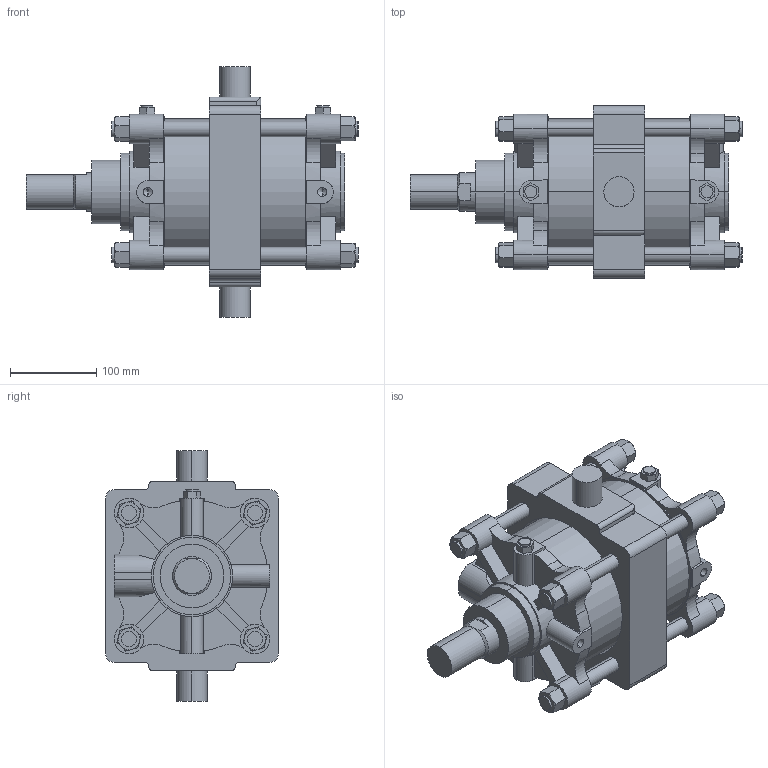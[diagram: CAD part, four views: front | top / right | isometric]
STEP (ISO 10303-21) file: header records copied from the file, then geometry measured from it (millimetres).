
FILE_DESCRIPTION (( 'STEP AP203' ), '1' );
FILE_NAME ('A##2-160#-100-T.STEP', '2016-03-31T06:56:37', ( '' ), ( '' ), 'SwSTEP 2.0', 'SolidWorks 2014', '' );
FILE_SCHEMA (( 'CONFIG_CONTROL_DESIGN' ));
Length unit declared in the file: millimetre
Products named in the file (7): A160-B; A160-A; A160-T; A##2-160#-100-T; A160-100
Assembly tree (16 placements, depth 2):
  A##2-160#-100-T
    A160-B
    A160-100
    A160-A
    (unnamed)  x8
    (unnamed)  x4
    A160-T
Bounding box: 384.5 x 200 x 290 mm (x, y, z)
Volume: 7034151.3 mm3; surface area: 601589.2 mm2
Topology: 16 solids, 18 shells, 423 faces, 1070 edges, 685 vertices
Faces by surface type: plane 211, cylinder 150, torus 48, cone 14
Entity records: 10913 total; most frequent: CARTESIAN_POINT 2208, DIRECTION 1711, ORIENTED_EDGE 1576, EDGE_CURVE 788, AXIS2_PLACEMENT_3D 660, VERTEX_POINT 519, LINE 391, VECTOR 391
